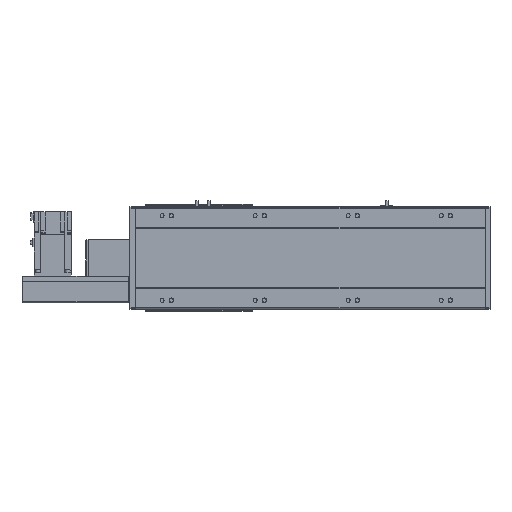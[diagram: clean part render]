
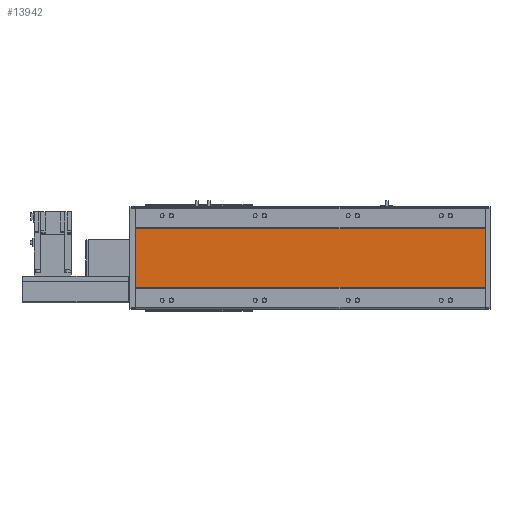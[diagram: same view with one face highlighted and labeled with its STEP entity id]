
A CAD part, front view. The second image highlights one B-rep face of the part: STEP entity #13942.
In plain terms, the highlighted planar face has unit normal (0, -1, 0).
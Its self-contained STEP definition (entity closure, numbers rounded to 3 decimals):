
#3097=ORIENTED_EDGE('',*,*,#6246,.T.);
#3098=ORIENTED_EDGE('',*,*,#6247,.F.);
#3099=ORIENTED_EDGE('',*,*,#6248,.F.);
#3100=ORIENTED_EDGE('',*,*,#6244,.T.);
#6244=EDGE_CURVE('',#7941,#7940,#9194,.T.);
#6246=EDGE_CURVE('',#7940,#7942,#9195,.T.);
#6247=EDGE_CURVE('',#7943,#7942,#9196,.T.);
#6248=EDGE_CURVE('',#7941,#7943,#9197,.T.);
#7940=VERTEX_POINT('',#22927);
#7941=VERTEX_POINT('',#22929);
#7942=VERTEX_POINT('',#22933);
#7943=VERTEX_POINT('',#22935);
#9194=LINE('',#22928,#10531);
#9195=LINE('',#22932,#10532);
#9196=LINE('',#22934,#10533);
#9197=LINE('',#22936,#10534);
#10531=VECTOR('',#18371,1000.);
#10532=VECTOR('',#18376,1000.);
#10533=VECTOR('',#18377,1000.);
#10534=VECTOR('',#18378,1000.);
#11474=EDGE_LOOP('',(#3097,#3098,#3099,#3100));
#12499=FACE_BOUND('',#11474,.T.);
#13297=PLANE('',#15202);
#13942=ADVANCED_FACE('',(#12499),#13297,.F.);
#15202=AXIS2_PLACEMENT_3D('',#22931,#18374,#18375);
#18371=DIRECTION('',(-1.,0.,0.));
#18374=DIRECTION('',(0.,1.,0.));
#18375=DIRECTION('',(0.,0.,1.));
#18376=DIRECTION('',(0.,0.,-1.));
#18377=DIRECTION('',(-1.,0.,0.));
#18378=DIRECTION('',(0.,0.,-1.));
#22927=CARTESIAN_POINT('',(12.,1.,64.294));
#22928=CARTESIAN_POINT('',(764.,1.,64.294));
#22929=CARTESIAN_POINT('',(764.,1.,64.294));
#22931=CARTESIAN_POINT('',(764.,1.,64.294));
#22932=CARTESIAN_POINT('',(12.,1.,64.294));
#22933=CARTESIAN_POINT('',(12.,1.,-64.294));
#22934=CARTESIAN_POINT('',(764.,1.,-64.294));
#22935=CARTESIAN_POINT('',(764.,1.,-64.294));
#22936=CARTESIAN_POINT('',(764.,1.,64.294));
